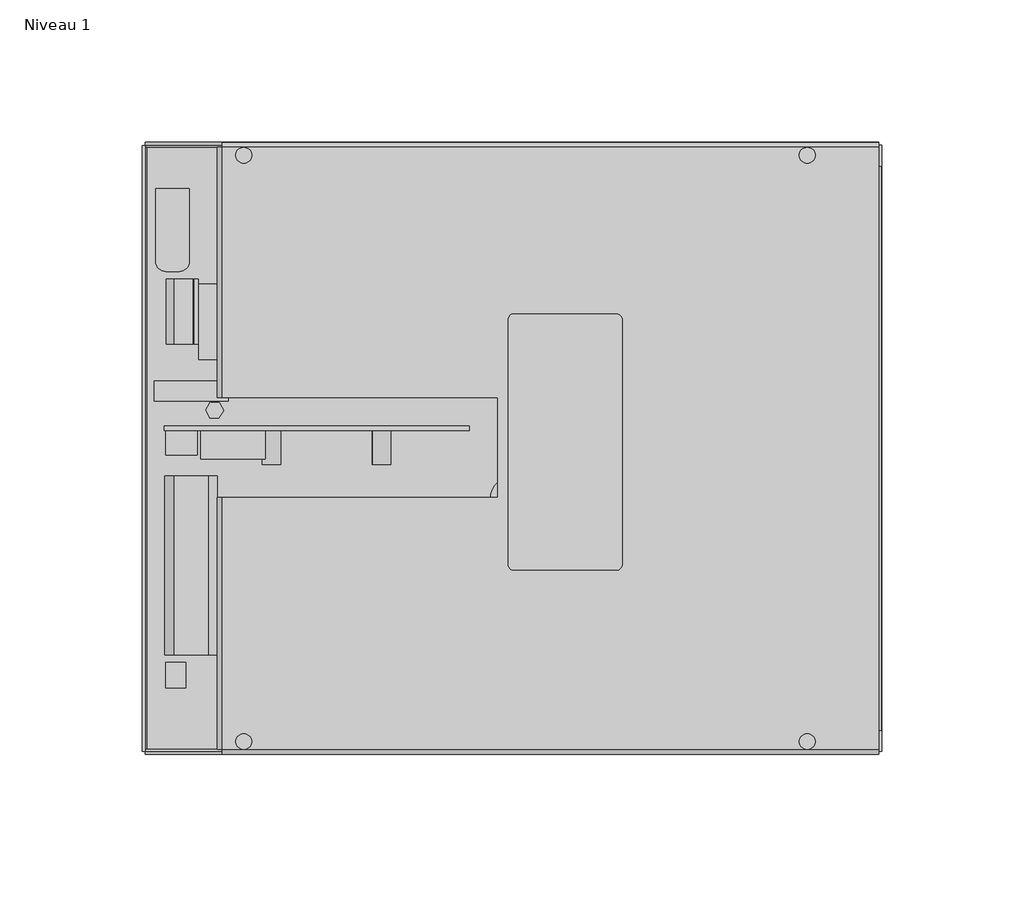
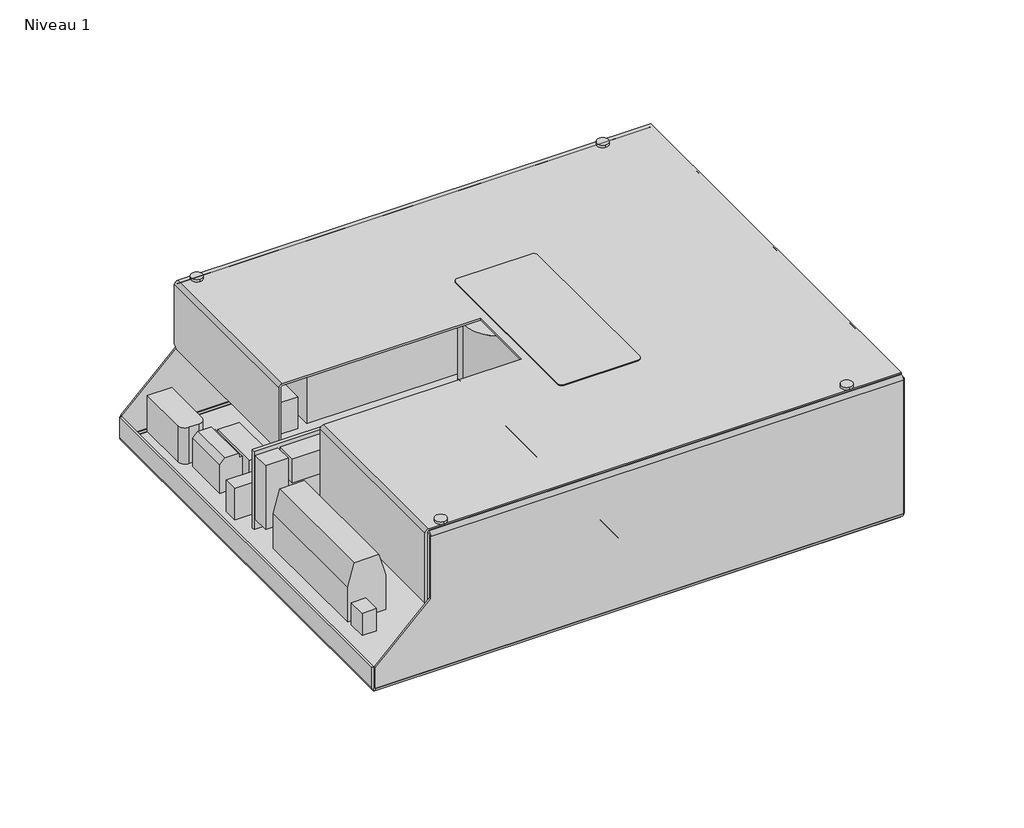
# One storey: 1 proxy.
"""IFC4 building model written with IfcOpenShell, lengths in millimetres."""

from ifc_helpers import new_model, si_unit, origin, place, context, project, spatial, transform, mapped, element, save
from components import electrical_equipment_e4c7c74b

model = new_model("IFC4")

# Units and contexts
model_context = context("Model", 3, world=origin())
ifc_project = project(units=[si_unit("LENGTHUNIT", "METRE", prefix="MILLI")], contexts=[model_context])

# Site, building, storey
site = spatial("IfcSite", under=ifc_project)
building = spatial("IfcBuilding", under=site)
storey = spatial("IfcBuildingStorey", under=building, Name="Niveau 1", Elevation=0.0)

# Proxy
placement = place(None, origin())
electrical_equipment_shape = electrical_equipment_e4c7c74b(model_context)
element("IfcBuildingElementProxy", 1, Name="FITIN 24V 24A CG4 : FITIN 24V 24A CG4", ObjectType="FITIN 24V 24A CG4 : FITIN 24V 24A CG4", at=placement, inside=storey, context=model_context, shape_type="MappedRepresentation", body=[
    mapped(electrical_equipment_shape, transform((-7332.9904935, 3712.5767037, 0.0), x_axis=(1.0, 0.0, 0.0), y_axis=(0.0, 1.0, 0.0), z_axis=(0.0, 0.0, 1.0))),
])

save(model, "model.ifc")
